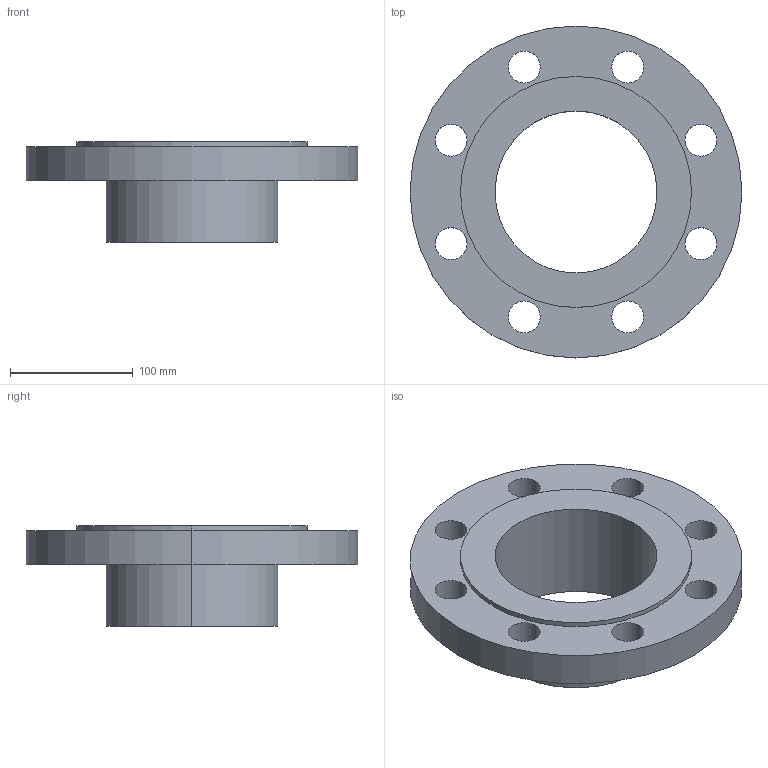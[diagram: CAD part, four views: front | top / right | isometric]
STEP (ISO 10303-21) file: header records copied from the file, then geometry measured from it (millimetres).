
FILE_DESCRIPTION (( 'STEP AP214' ), '1' );
FILE_NAME ('PN40 DN125 Type 02 in 33 - (Type A Face).STEP', '2019-01-02T19:36:13', ( '' ), ( '' ), 'SwSTEP 2.0', 'SolidWorks 2019', '' );
FILE_SCHEMA (( 'AUTOMOTIVE_DESIGN' ));
Length unit declared in the file: millimetre
Products named in the file (1): PN40 DN125 Type 02 in 33 - (Type A Face)
Bounding box: 270 x 270 x 82 mm (x, y, z)
Volume: 1211118.9 mm3; surface area: 223537.6 mm2
Topology: 2 solids, 2 shells, 35 faces, 86 edges, 56 vertices
Faces by surface type: cylinder 26, plane 5, cone 4
Entity records: 1147 total; most frequent: DIRECTION 214, CARTESIAN_POINT 178, ORIENTED_EDGE 172, AXIS2_PLACEMENT_3D 92, EDGE_CURVE 86, EDGE_LOOP 56, CIRCLE 56, VERTEX_POINT 56
